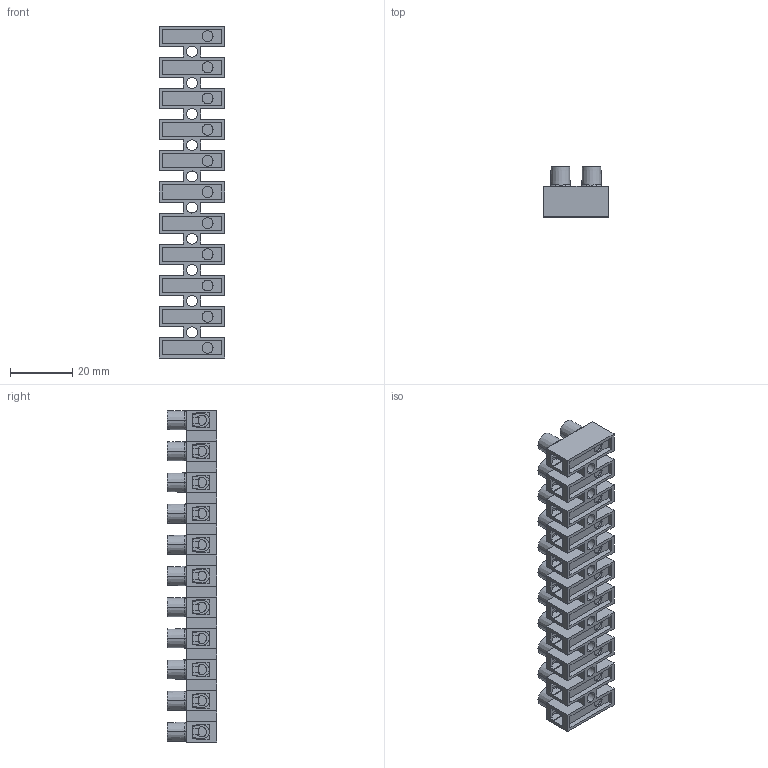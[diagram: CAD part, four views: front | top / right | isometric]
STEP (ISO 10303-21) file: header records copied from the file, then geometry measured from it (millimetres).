
FILE_DESCRIPTION (( 'STEP AP214' ), '1' );
FILE_NAME ('323-STFB-DS-11.STEP', '2008-04-03T19:28:52', ( 'weco' ), ( 'weco' ), 'SwSTEP 2.0', 'SolidWorks 2007', '' );
FILE_SCHEMA (( 'AUTOMOTIVE_DESIGN' ));
Products named in the file (1): 323-STFB-DS-11
Bounding box: 21 x 16 x 106.5 mm (x, y, z)
Volume: 14278.4 mm3; surface area: 17323.5 mm2
Topology: 1 solids, 1 shells, 1865 faces, 5281 edges, 3451 vertices
Faces by surface type: plane 1087, cylinder 459, cone 165, bspline 154
Entity records: 69114 total; most frequent: CARTESIAN_POINT 21585, ORIENTED_EDGE 10562, DIRECTION 9248, EDGE_CURVE 5281, VERTEX_POINT 3451, LINE 3418, VECTOR 3418, AXIS2_PLACEMENT_3D 2915
